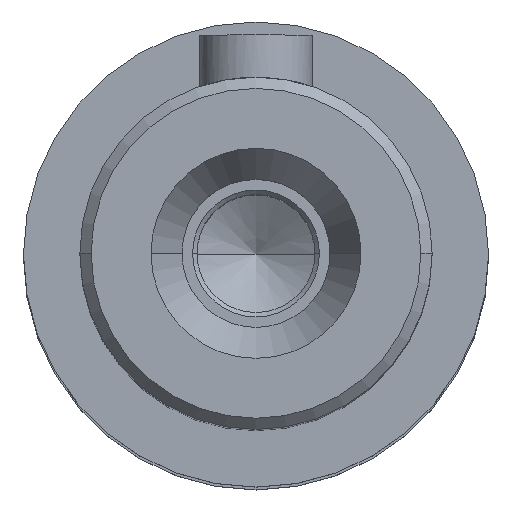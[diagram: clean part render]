
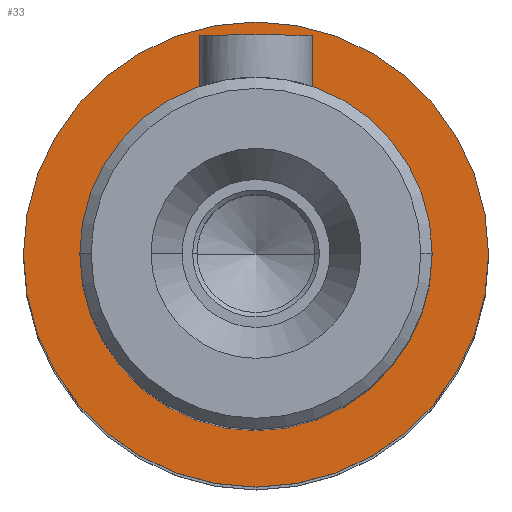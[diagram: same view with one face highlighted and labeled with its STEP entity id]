
A CAD part, top view. The second image highlights one B-rep face of the part: STEP entity #33.
In plain terms, the highlighted planar face has unit normal (0, 0, 1) as drawn and (1, 0, 0) by its records, which use the part's own axes.
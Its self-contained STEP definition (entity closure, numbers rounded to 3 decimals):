
#21=FACE_BOUND('',#105,.T.);
#33=ADVANCED_FACE('',(#67,#21),#513,.T.);
#67=FACE_OUTER_BOUND('',#104,.T.);
#104=EDGE_LOOP('',(#164,#165));
#105=EDGE_LOOP('',(#166,#167));
#164=ORIENTED_EDGE('',*,*,#323,.F.);
#165=ORIENTED_EDGE('',*,*,#279,.F.);
#166=ORIENTED_EDGE('',*,*,#326,.F.);
#167=ORIENTED_EDGE('',*,*,#284,.F.);
#279=EDGE_CURVE('',#449,#478,#376,.T.);
#284=EDGE_CURVE('',#450,#479,#378,.T.);
#323=EDGE_CURVE('',#478,#449,#398,.T.);
#326=EDGE_CURVE('',#479,#450,#400,.T.);
#376=TRIMMED_CURVE($,#412,(#1042),(#1043),.T.,.CARTESIAN.);
#378=TRIMMED_CURVE($,#414,(#1054),(#1055),.T.,.CARTESIAN.);
#398=TRIMMED_CURVE($,#434,(#1164),(#1165),.T.,.CARTESIAN.);
#400=TRIMMED_CURVE($,#436,(#1172),(#1173),.T.,.CARTESIAN.);
#412=CIRCLE('',#728,16.5);
#414=CIRCLE('',#730,12.5);
#434=CIRCLE('',#750,16.5);
#436=CIRCLE('',#752,12.5);
#449=VERTEX_POINT('',#981);
#450=VERTEX_POINT('',#982);
#478=VERTEX_POINT('',#1010);
#479=VERTEX_POINT('',#1011);
#513=PLANE('',#704);
#704=AXIS2_PLACEMENT_3D('',#876,#772,$);
#728=AXIS2_PLACEMENT_3D($,#1041,#802,#803);
#730=AXIS2_PLACEMENT_3D($,#1053,#806,#807);
#750=AXIS2_PLACEMENT_3D($,#1163,#846,#847);
#752=AXIS2_PLACEMENT_3D($,#1171,#850,#851);
#772=DIRECTION('',(1.,0.,0.));
#802=DIRECTION('',(-1.,0.,0.));
#803=DIRECTION('',(0.,0.,-1.));
#806=DIRECTION('',(1.,0.,0.));
#807=DIRECTION('',(0.,0.,-1.));
#846=DIRECTION('',(-1.,0.,0.));
#847=DIRECTION('',(0.,0.,1.));
#850=DIRECTION('',(1.,0.,0.));
#851=DIRECTION('',(0.,0.,1.));
#876=CARTESIAN_POINT('',(59.5,-19.86,-19.86));
#981=CARTESIAN_POINT('',(59.5,0.,-16.5));
#982=CARTESIAN_POINT('',(59.5,0.,-12.5));
#1010=CARTESIAN_POINT('',(59.5,0.,16.5));
#1011=CARTESIAN_POINT('',(59.5,0.,12.5));
#1041=CARTESIAN_POINT('',(59.5,0.,0.));
#1042=CARTESIAN_POINT('',(59.5,0.,-16.5));
#1043=CARTESIAN_POINT('',(59.5,0.,16.5));
#1053=CARTESIAN_POINT('',(59.5,0.,0.));
#1054=CARTESIAN_POINT('',(59.5,0.,-12.5));
#1055=CARTESIAN_POINT('',(59.5,0.,12.5));
#1163=CARTESIAN_POINT('',(59.5,0.,0.));
#1164=CARTESIAN_POINT('',(59.5,0.,16.5));
#1165=CARTESIAN_POINT('',(59.5,0.,-16.5));
#1171=CARTESIAN_POINT('',(59.5,0.,0.));
#1172=CARTESIAN_POINT('',(59.5,0.,12.5));
#1173=CARTESIAN_POINT('',(59.5,0.,-12.5));
